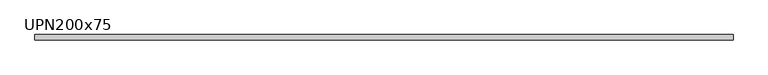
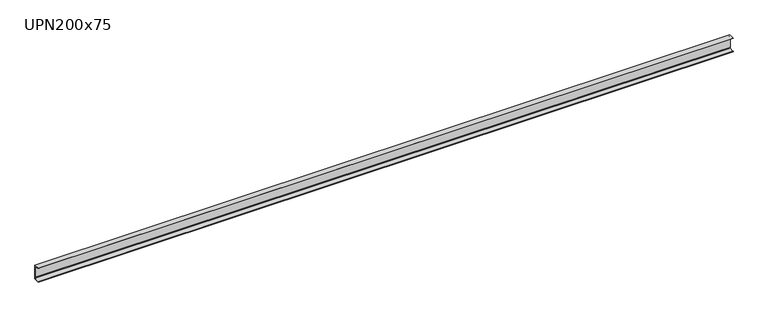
"""IFC4 building model written with IfcOpenShell, lengths in millimetres: beam geometry, M_MC Shapes : UPN200x75."""

from ifc_helpers import new_model, si_unit, point, frame, frame_2d, origin, place, context, project, spatial, polyline, circle_curve, trimmed, segment, composite_curve, outline, extrude, source, transform, mapped, element, save


def upn200x75_2a7df19b(model_context):
    return source(origin(), model_context, "Body", "SweptSolid", [
        extrude(outline(composite_curve([segment(polyline([(10.9, 100.0), (10.9, -100.0), (-64.1, -100.0), (-64.1, -99.0253247)]), True, "CONTINUOUS"), segment(trimmed(circle_curve(frame_2d((-60.15, -99.0253247)), 3.95), [point((-64.1, -99.0253247))], [point((-60.7993773, -95.1290689))], False, "CARTESIAN"), True, "CONTINUOUS"), segment(polyline([(-60.7993773, -95.1290689), (-0.2512455, -85.0376935)]), True, "CONTINUOUS"), segment(trimmed(circle_curve(frame_2d((-1.55, -77.2451819)), 7.9), [point((-0.2512455, -85.0376935))], [point((6.35, -77.2451819))], True, "CARTESIAN"), True, "CONTINUOUS"), segment(polyline([(6.35, -77.2451819), (6.35, 77.2451819)]), True, "CONTINUOUS"), segment(trimmed(circle_curve(frame_2d((-1.55, 77.2451819)), 7.9), [point((6.35, 77.2451819))], [point((-0.2512455, 85.0376935))], True, "CARTESIAN"), True, "CONTINUOUS"), segment(polyline([(-0.2512455, 85.0376935), (-60.7993773, 95.1290689)]), True, "CONTINUOUS"), segment(trimmed(circle_curve(frame_2d((-60.15, 99.0253247)), 3.95), [point((-60.7993773, 95.1290689))], [point((-64.1, 99.0253247))], False, "CARTESIAN"), True, "CONTINUOUS"), segment(polyline([(-64.1, 99.0253247), (-64.1, 100.0), (10.9, 100.0)]), True, "CONTINUOUS")], self_intersect=False)), frame((-4824.95, 0.0, 0.0), z_axis=(1.0, 0.0, 0.0), x_axis=(0.0, 1.0, 0.0)), (0.0, 0.0, 1.0), 9524.9),
    ])


if __name__ == "__main__":
    model = new_model("IFC4")
    model_context = context("Model", 3, world=origin())
    ifc_project = project(units=[si_unit("LENGTHUNIT", "METRE", prefix="MILLI")], contexts=[model_context])
    site = spatial("IfcSite", under=ifc_project)
    building = spatial("IfcBuilding", under=site)
    placement = place(None, origin())
    upn200x75_shape = upn200x75_2a7df19b(model_context)
    element("IfcBeam", 1, ObjectType="M_MC Shapes : UPN200x75", at=placement, inside=building, context=model_context, shape_type="MappedRepresentation", body=[
        mapped(upn200x75_shape, transform((0.0, 0.0, 0.0), x_axis=(1.0, 0.0, 0.0), y_axis=(0.0, 1.0, 0.0), z_axis=(0.0, 0.0, 1.0))),
    ])
    save(model, "model.ifc")
